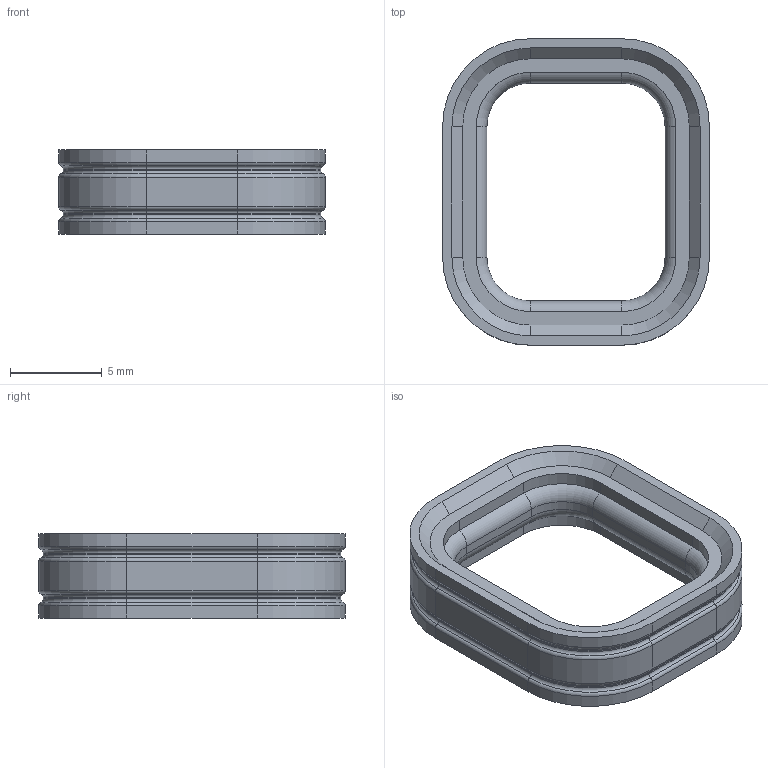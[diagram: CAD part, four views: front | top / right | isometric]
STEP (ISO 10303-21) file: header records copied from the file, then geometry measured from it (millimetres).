
FILE_DESCRIPTION((''),'2;1');
FILE_NAME('C-1010-036-0406','2013-07-31T',('workeradm'),('Tyco Electronics Ltd.'),'PRO/ENGINEER BY PARAMETRIC TECHNOLOGY CORPORATION, 2011490','PRO/ENGINEER BY PARAMETRIC TECHNOLOGY CORPORATION, 2011490','');
FILE_SCHEMA(('AUTOMOTIVE_DESIGN { 1 0 10303 214 1 1 1 1 }'));
Length unit declared in the file: millimetre
Products named in the file (1): C-1010-036-0406
Bounding box: 14.5 x 16.66 x 4.57 mm (x, y, z)
Volume: 377.9 mm3; surface area: 630.4 mm2
Topology: 1 solids, 1 shells, 164 faces, 352 edges, 192 vertices
Faces by surface type: cylinder 72, plane 44, torus 40, cone 8
Entity records: 4684 total; most frequent: DIRECTION 856, CARTESIAN_POINT 710, ORIENTED_EDGE 704, EDGE_CURVE 352, AXIS2_PLACEMENT_3D 340, VERTEX_POINT 192, VECTOR 176, LINE 176
